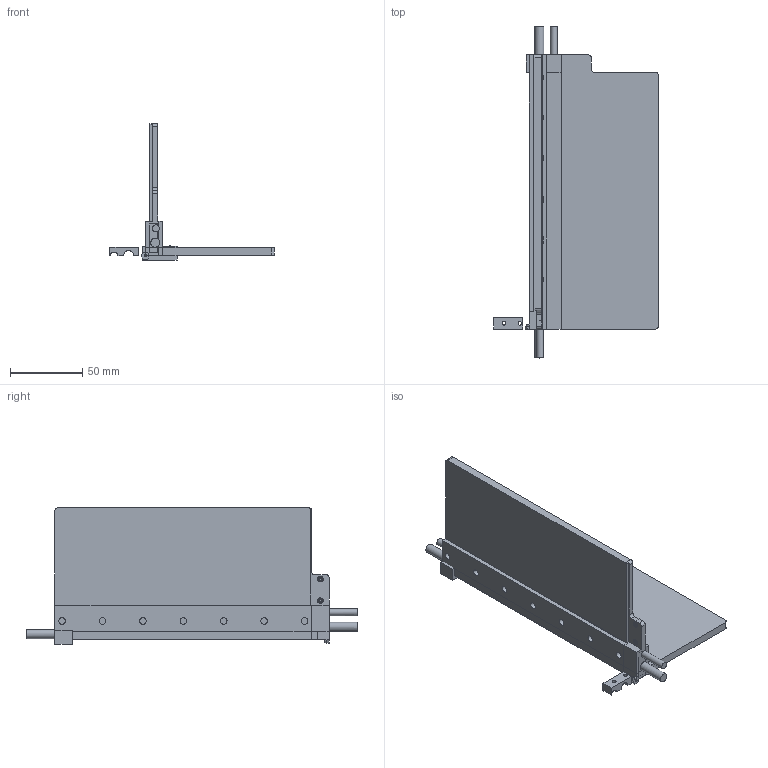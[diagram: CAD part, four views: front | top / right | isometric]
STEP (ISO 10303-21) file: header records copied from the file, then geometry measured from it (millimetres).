
FILE_DESCRIPTION( ( 'Unknown' ), '1' );
FILE_NAME( 'ML1506_01.stp', 'Unknown', ( 'Unknown' ), ( 'Unknown' ), 'XStep 1.0', 'Unknown', ' ' );
FILE_SCHEMA( ( 'CONFIG_CONTROL_DESIGN' ) );
Length unit declared in the file: millimetre
Products named in the file (6): Assem1; 4022 363 05133; GietharsUL6_versie2; 4022 363 35001; 4022 363 40102
Bounding box: 113.86 x 230 x 94.3 mm (x, y, z)
Volume: 243565.3 mm3; surface area: 119771.6 mm2
Topology: 10 solids, 10 shells, 234 faces, 632 edges, 426 vertices
Faces by surface type: plane 148, cylinder 82, cone 4
Full cylindrical faces by diameter (mm): 1.6 x4, 2.5 x4, 3 x4, 3.2 x4, 4 x4, 4.5 x28, 4.8 x2, 6.2 x2
Entity records: 3774 total; most frequent: DIRECTION 606, CARTESIAN_POINT 594, ORIENTED_EDGE 546, EDGE_CURVE 273, AXIS2_PLACEMENT_3D 210, VERTEX_POINT 198, EDGE_LOOP 189, LINE 186
